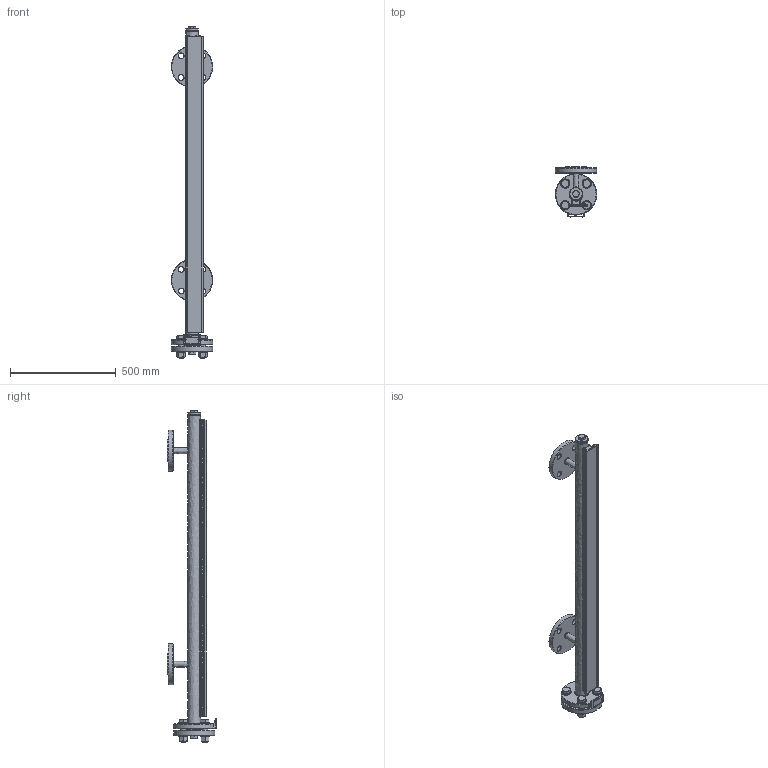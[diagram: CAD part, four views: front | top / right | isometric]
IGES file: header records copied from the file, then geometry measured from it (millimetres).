
Global section: file name: ML_E_4; native system: Autodesk Inventor 2015; preprocessor: unknown; author: aantal; date: 20151021.144317; units: millimetre
Bounding box: 195 x 234.5 x 1570.5 mm (x, y, z)
Volume: 4923464 mm3; surface area: 1721246.7 mm2
Topology: 33 solids, 33 shells, 944 faces, 2451 edges, 1612 vertices
Faces by surface type: bspline 944
